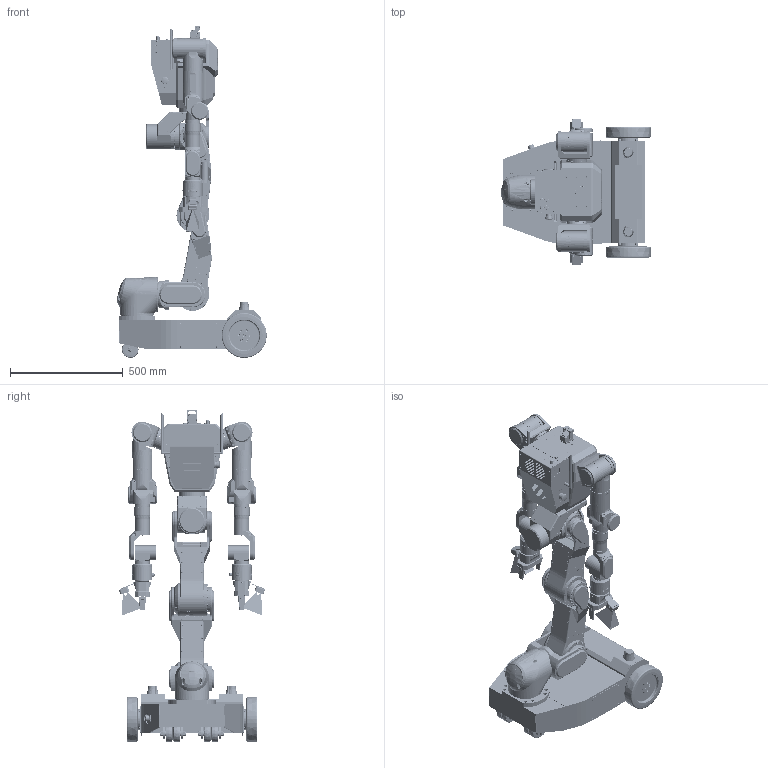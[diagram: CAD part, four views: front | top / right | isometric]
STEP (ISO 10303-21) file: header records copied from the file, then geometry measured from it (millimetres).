
FILE_DESCRIPTION(/* description */ (''),/* implementation_level */ '2;1');
FILE_NAME(/* name */ 'RB-Y1_v1.1_3D_Fast Grip_DD_260107.stp',/* time_stamp */ '2026-01-08T15:25:54+09:00',/* author */ ('KiWook.H'),/* organization */ (''),/* preprocessor_version */ 'ST-DEVELOPER v20',/* originating_system */ 'Autodesk Inventor 2025',/* authorisation */ '');
FILE_SCHEMA (('AUTOMOTIVE_DESIGN { 1 0 10303 214 3 1 1 }'));
Products named in the file (22): RB-Y1_v1.1_3D_Fast Grip_DD_260107; 000_Base_v1.1; 001_AR_v1.1; 002_AP_v1.1; 003_KN_v1.1; 004_HP_v1.1; 005_HR_v1.1; 006_HY_v1.1; 007_SP_R_v1.1; 008_SR_R_v1.1; 009_SY_R_v1.1; 010_EL_R_v1.1; 011_WY1_R_v1.1; 012_WP_R_v1.1; 014_SP_L_v1.1; 015_SR_L_v1.1; 016_SY_L_v1.1; 017_EL_L_v1.1; 018_WY1_L_v1.1; 019_WP_L_v1.1; 020_FTsensor TF_v1.1; 021_Gripper_Fast_v1.1
Assembly tree (23 placements, depth 2):
  RB-Y1_v1.1_3D_Fast Grip_DD_260107
    000_Base_v1.1
    001_AR_v1.1
    002_AP_v1.1
    003_KN_v1.1
    004_HP_v1.1
    005_HR_v1.1
    006_HY_v1.1
    007_SP_R_v1.1
    008_SR_R_v1.1
    009_SY_R_v1.1
    010_EL_R_v1.1
    011_WY1_R_v1.1
    012_WP_R_v1.1
    014_SP_L_v1.1
    015_SR_L_v1.1
    016_SY_L_v1.1
    017_EL_L_v1.1
    018_WY1_L_v1.1
    019_WP_L_v1.1
    020_FTsensor TF_v1.1  x2
    021_Gripper_Fast_v1.1  x2
Bounding box: 662.62 x 646.07 x 1470 mm (x, y, z)
Volume: 71210898.1 mm3; surface area: 4975069.2 mm2
Topology: 43 solids, 317 shells, 16887 faces, 43315 edges, 28163 vertices
Faces by surface type: plane 9353, cylinder 4547, cone 1773, torus 747, bspline 410, sphere 57
Full cylindrical faces by diameter (mm): 0.7 x16, 1.03 x16, 1.5 x10, 1.567 x16, 1.6 x4, 1.7 x10, 2 x24, 2.013 x4, 2.05 x12, 2.2 x4, 2.459 x76, 2.5 x35, 2.6 x4, 2.693 x10, 3 x194, 3.1 x10, 3.2 x36, 3.242 x1, 3.3 x8, 3.4 x16, 3.9 x1, 4 x77, 4.5 x22, 4.8 x6, 4.917 x8, 5 x130, 5.1 x4, 5.105 x2, 5.2 x6, 5.5 x104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
Entity records: 595446 total; most frequent: CARTESIAN_POINT 207743, ORIENTED_EDGE 79188, DIRECTION 76407, EDGE_CURVE 39610, AXIS2_PLACEMENT_3D 27634, VERTEX_POINT 26055, LINE 21139, VECTOR 21139
